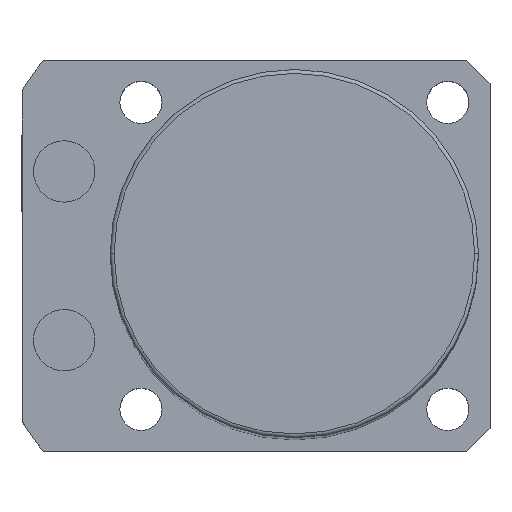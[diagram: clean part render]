
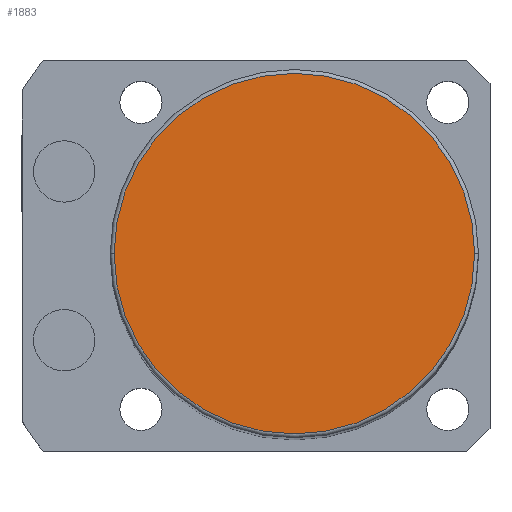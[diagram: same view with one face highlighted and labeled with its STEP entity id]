
A CAD part, top view. The second image highlights one B-rep face of the part: STEP entity #1883.
In plain terms, the highlighted planar face has unit normal (0, 0, 1).
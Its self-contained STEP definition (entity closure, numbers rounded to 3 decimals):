
#7 = AXIS2_PLACEMENT_3D ( 'NONE', #23, #196, #386 ) ;
#23 = CARTESIAN_POINT ( 'NONE',  ( 0., 0., 176. ) ) ;
#196 = DIRECTION ( 'NONE',  ( 0., 0., 1. ) ) ;
#266 = VERTEX_POINT ( 'NONE', #1475 ) ;
#386 = DIRECTION ( 'NONE',  ( 1., 0., 0. ) ) ;
#506 = DIRECTION ( 'NONE',  ( 1., 0., 0. ) ) ;
#827 = EDGE_CURVE ( 'NONE', #1729, #266, #1032, .T. ) ;
#1032 = CIRCLE ( 'NONE', #2189, 23.5 ) ;
#1225 = CARTESIAN_POINT ( 'NONE',  ( -23.5, 0., 176. ) ) ;
#1242 = DIRECTION ( 'NONE',  ( 0., 0., 1. ) ) ;
#1437 = CARTESIAN_POINT ( 'NONE',  ( 0., 0., 176. ) ) ;
#1459 = EDGE_CURVE ( 'NONE', #266, #1729, #1889, .T. ) ;
#1468 = DIRECTION ( 'NONE',  ( 1., 0., 0. ) ) ;
#1475 = CARTESIAN_POINT ( 'NONE',  ( 23.5, 0., 176. ) ) ;
#1491 = DIRECTION ( 'NONE',  ( 0., 0., 1. ) ) ;
#1492 = EDGE_LOOP ( 'NONE', ( #2221, #1578 ) ) ;
#1578 = ORIENTED_EDGE ( 'NONE', *, *, #827, .T. ) ;
#1685 = CARTESIAN_POINT ( 'NONE',  ( 0., 0., 176. ) ) ;
#1729 = VERTEX_POINT ( 'NONE', #1225 ) ;
#1883 = ADVANCED_FACE ( 'NONE', ( #2005 ), #2058, .T. ) ;
#1889 = CIRCLE ( 'NONE', #7, 23.5 ) ;
#2005 = FACE_OUTER_BOUND ( 'NONE', #1492, .T. ) ;
#2058 = PLANE ( 'NONE',  #2371 ) ;
#2189 = AXIS2_PLACEMENT_3D ( 'NONE', #1437, #1242, #506 ) ;
#2221 = ORIENTED_EDGE ( 'NONE', *, *, #1459, .T. ) ;
#2371 = AXIS2_PLACEMENT_3D ( 'NONE', #1685, #1491, #1468 ) ;
